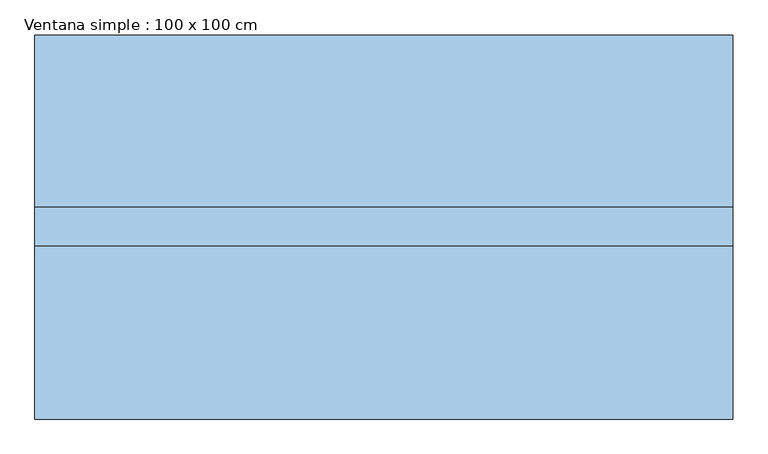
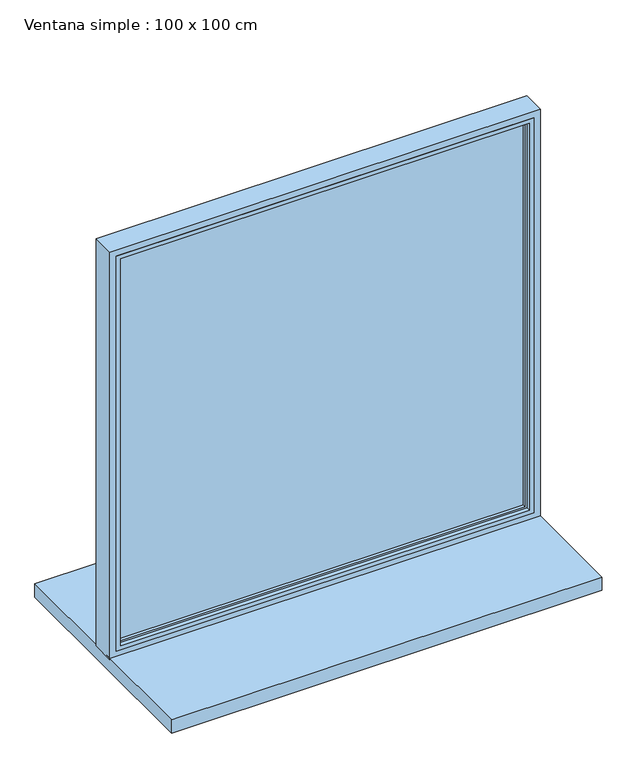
"""IFC4 building model written with IfcOpenShell, lengths in millimetres: window geometry, Ventana simple : 100 x 100 cm."""

from ifc_helpers import new_model, si_unit, frame, origin, place, context, project, spatial, polyline, ellipse_curve, outline, extrude, faceted_brep, source, transform, mapped, element, save
from ifc_brep_helpers import plane_surface, cylinder_surface, advanced_brep


def ventana_simple_100_x_100_cm_c94a0fc4(model_context):
    return source(origin(), model_context, "Body", "SolidModel", [
        extrude(outline(polyline([(470.0, -3.0), (-470.0, -3.0), (-470.0, 9.8627388), (470.0, 9.8627388), (470.0, -3.0)])), frame((0.0, 0.0, 830.0), z_axis=(0.0, 0.0, 1.0), x_axis=(1.0, 0.0, 0.0)), (0.0, 0.0, 1.0), 940.0),
        faceted_brep([(485.0, -20.0, 1785.0), (485.0, 20.0, 1785.0), (-485.0, 20.0, 1785.0), (-485.0, -20.0, 1785.0), (475.0, -10.0, 1775.0), (475.0, -20.0, 1775.0), (-475.0, -20.0, 1775.0), (-475.0, -10.0, 1775.0), (470.0, 20.0, 1770.0), (470.0, -10.0, 1770.0), (-470.0, -10.0, 1770.0), (-470.0, 20.0, 1770.0), (-485.0, 20.0, 815.0), (-485.0, -20.0, 815.0), (-475.0, -20.0, 825.0), (-475.0, -10.0, 825.0), (-470.0, -10.0, 830.0), (-470.0, 20.0, 830.0), (485.0, 20.0, 815.0), (485.0, -20.0, 815.0), (475.0, -20.0, 825.0), (475.0, -10.0, 825.0), (470.0, -10.0, 830.0), (470.0, 20.0, 830.0)], [[[0, 1, 2, 3]], [[4, 5, 6, 7]], [[8, 9, 10, 11]], [[3, 2, 12, 13]], [[7, 6, 14, 15]], [[11, 10, 16, 17]], [[13, 12, 18, 19]], [[15, 14, 20, 21]], [[17, 16, 22, 23]], [[19, 18, 1, 0]], [[3, 13, 19, 0], [5, 20, 14, 6]], [[21, 20, 5, 4]], [[7, 15, 21, 4], [9, 22, 16, 10]], [[23, 22, 9, 8]], [[1, 18, 12, 2], [11, 17, 23, 8]]]),
        advanced_brep(
        [(-500.0, 35.0, 1800.0), (-500.0, 35.0, 800.0), (-500.0, -20.0, 800.0), (-500.0, -20.0, 1800.0), (-485.0, 20.0, 1785.0), (-485.0, -20.0, 1785.0), (-485.0, -20.0, 815.0), (-485.0, 20.0, 815.0), (-475.0, 30.0, 1775.0), (-475.0, 20.0, 1775.0), (-475.0, 20.0, 825.0), (-475.0, 30.0, 825.0), (-480.0, 35.0, 1780.0), (-480.0, 35.0, 820.0), (500.0, 35.0, 800.0), (500.0, -20.0, 800.0), (485.0, -20.0, 815.0), (485.0, 20.0, 815.0), (475.0, 20.0, 825.0), (475.0, 30.0, 825.0), (480.0, 35.0, 820.0), (500.0, 35.0, 1800.0), (500.0, -20.0, 1800.0), (485.0, -20.0, 1785.0), (485.0, 20.0, 1785.0), (475.0, 20.0, 1775.0), (475.0, 30.0, 1775.0), (480.0, 35.0, 1780.0)],
        [
            (0, 1),
            (1, 2),
            (2, 3),
            (3, 0),
            (4, 5),
            (5, 6),
            (6, 7),
            (7, 4),
            (8, 9),
            (9, 10),
            (10, 11),
            (11, 8),
            (12, 8, ellipse_curve(frame((-480.0, 30.0, 1780.0), z_axis=(-0.7071067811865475, 0.0, -0.7071067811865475), x_axis=(-0.7071067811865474, 0.0, 0.7071067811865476)), 7.0710678, 5.0)),
            (11, 13, ellipse_curve(frame((-480.0, 30.0, 820.0), z_axis=(-0.7071067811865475, 0.0, 0.7071067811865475), x_axis=(0.7071067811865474, 0.0, 0.7071067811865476)), 7.0710678, 5.0)),
            (13, 12),
            (1, 14),
            (14, 15),
            (15, 2),
            (6, 16),
            (16, 17),
            (17, 7),
            (10, 18),
            (18, 19),
            (19, 11),
            (19, 20, ellipse_curve(frame((480.0, 30.0, 820.0), z_axis=(-0.7071067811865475, 0.0, -0.7071067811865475), x_axis=(-0.7071067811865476, 0.0, 0.7071067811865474)), 7.0710678, 5.0)),
            (20, 13),
            (14, 21),
            (21, 22),
            (22, 15),
            (16, 23),
            (23, 24),
            (24, 17),
            (18, 25),
            (25, 26),
            (26, 19),
            (26, 27, ellipse_curve(frame((480.0, 30.0, 1780.0), z_axis=(0.7071067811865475, 0.0, -0.7071067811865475), x_axis=(-0.7071067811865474, 0.0, -0.7071067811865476)), 7.0710678, 5.0)),
            (27, 20),
            (21, 0),
            (3, 22),
            (5, 23),
            (4, 24),
            (9, 25),
            (8, 26),
            (12, 27),
        ],
        [
            plane_surface(frame((-500.0, 0.0, 1800.0), z_axis=(-1.0, 0.0, 0.0), x_axis=(0.0, 0.0, -1.0))),
            plane_surface(frame((-485.0, -20.0, 1785.0), z_axis=(1.0, 0.0, 0.0), x_axis=(0.0, 0.0, -1.0))),
            plane_surface(frame((-475.0, 20.0, 1775.0), z_axis=(1.0, 0.0, 0.0), x_axis=(0.0, 0.0, -1.0))),
            cylinder_surface(frame((-480.0, 30.0, 1800.0), z_axis=(0.0, 0.0, 1.0), x_axis=(1.0, 0.0, 0.0)), 5.0),
            plane_surface(frame((-500.0, 0.0, 800.0), z_axis=(0.0, 0.0, -1.0), x_axis=(1.0, 0.0, 0.0))),
            plane_surface(frame((-485.0, -20.0, 815.0), z_axis=(0.0, 0.0, 1.0), x_axis=(1.0, 0.0, 0.0))),
            plane_surface(frame((-475.0, 20.0, 825.0), z_axis=(0.0, 0.0, 1.0), x_axis=(1.0, 0.0, 0.0))),
            cylinder_surface(frame((-500.0, 30.0, 820.0), z_axis=(-1.0, 0.0, 0.0), x_axis=(0.0, 0.0, 1.0)), 5.0),
            plane_surface(frame((500.0, 0.0, 800.0), z_axis=(1.0, 0.0, 0.0), x_axis=(0.0, 0.0, 1.0))),
            plane_surface(frame((485.0, -20.0, 815.0), z_axis=(-1.0, 0.0, 0.0), x_axis=(0.0, 0.0, 1.0))),
            plane_surface(frame((475.0, 20.0, 825.0), z_axis=(-1.0, 0.0, 0.0), x_axis=(0.0, 0.0, 1.0))),
            cylinder_surface(frame((480.0, 30.0, 800.0), z_axis=(0.0, 0.0, -1.0), x_axis=(-1.0, 0.0, 0.0)), 5.0),
            plane_surface(frame((500.0, 0.0, 1800.0), z_axis=(0.0, 0.0, 1.0), x_axis=(-1.0, 0.0, 0.0))),
            plane_surface(frame((500.0, -20.0, 1800.0), z_axis=(0.0, -1.0, 0.0), x_axis=(-1.0, 0.0, 0.0))),
            plane_surface(frame((485.0, -20.0, 1785.0), z_axis=(0.0, 0.0, -1.0), x_axis=(-1.0, 0.0, 0.0))),
            plane_surface(frame((485.0, 20.0, 1785.0), z_axis=(0.0, -1.0, 0.0), x_axis=(-1.0, 0.0, 0.0))),
            plane_surface(frame((475.0, 20.0, 1775.0), z_axis=(0.0, 0.0, -1.0), x_axis=(-1.0, 0.0, 0.0))),
            cylinder_surface(frame((500.0, 30.0, 1780.0), z_axis=(1.0, 0.0, 0.0), x_axis=(0.0, 0.0, -1.0)), 5.0),
            plane_surface(frame((480.0, 35.0, 1780.0), z_axis=(0.0, 1.0, 0.0), x_axis=(-1.0, 0.0, 0.0))),
        ],
        [
            (0, [[1, 2, 3, 4]]),
            (1, [[5, 6, 7, 8]]),
            (2, [[9, 10, 11, 12]]),
            (3, [[13, -12, 14, 15]]),
            (4, [[-2, 16, 17, 18]]),
            (5, [[-7, 19, 20, 21]]),
            (6, [[-11, 22, 23, 24]]),
            (7, [[-14, -24, 25, 26]]),
            (8, [[-17, 27, 28, 29]]),
            (9, [[-20, 30, 31, 32]]),
            (10, [[-23, 33, 34, 35]]),
            (11, [[-25, -35, 36, 37]]),
            (12, [[-28, 38, -4, 39]]),
            (13, [[-18, -29, -39, -3], [40, -30, -19, -6]]),
            (14, [[-31, -40, -5, 41]]),
            (15, [[-21, -32, -41, -8], [42, -33, -22, -10]]),
            (16, [[-34, -42, -9, 43]]),
            (17, [[-36, -43, -13, 44]]),
            (18, [[-38, -27, -16, -1], [-26, -37, -44, -15]]),
        ],
    ),
        extrude(outline(polyline([(500.0, -268.1372612), (-500.0, -268.1372612), (-500.0, 281.8627389), (500.0, 281.8627389), (500.0, -268.1372612)])), frame((0.0, 0.0, 770.0), z_axis=(0.0, 0.0, 1.0), x_axis=(1.0, 0.0, 0.0)), (0.0, 0.0, 1.0), 33.0),
    ])


if __name__ == "__main__":
    model = new_model("IFC4")
    model_context = context("Model", 3, world=origin())
    ifc_project = project(units=[si_unit("LENGTHUNIT", "METRE", prefix="MILLI")], contexts=[model_context])
    site = spatial("IfcSite", under=ifc_project)
    building = spatial("IfcBuilding", under=site)
    placement = place(None, origin())
    ventana_simple_100_x_100_cm_shape = ventana_simple_100_x_100_cm_c94a0fc4(model_context)
    element("IfcWindow", 1, ObjectType="Ventana simple : 100 x 100 cm", at=placement, inside=building, context=model_context, shape_type="MappedRepresentation", body=[
        mapped(ventana_simple_100_x_100_cm_shape, transform((0.0, 0.0, 0.0), x_axis=(1.0, 0.0, 0.0), y_axis=(0.0, 1.0, 0.0), z_axis=(0.0, 0.0, 1.0))),
    ])
    save(model, "model.ifc")
